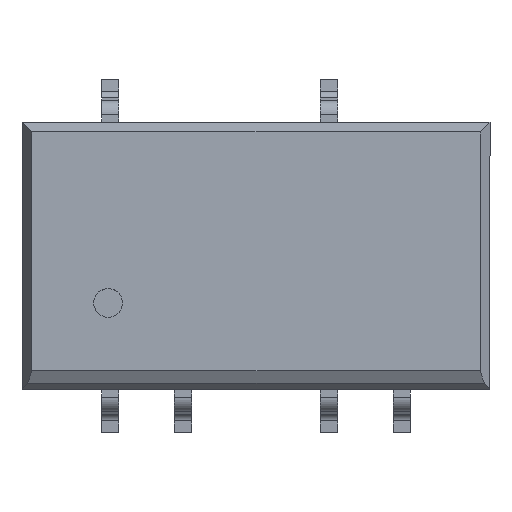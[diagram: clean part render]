
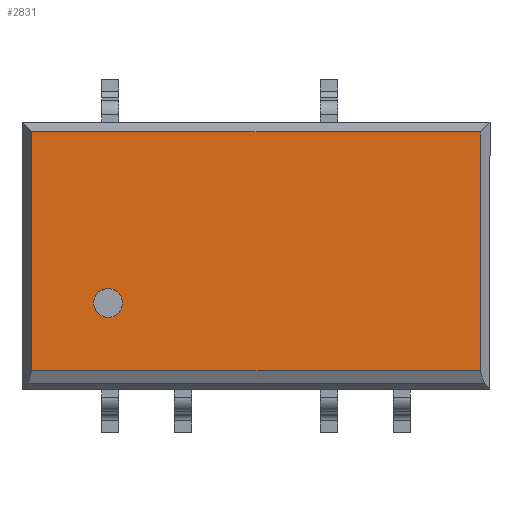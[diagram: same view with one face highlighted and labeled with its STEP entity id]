
A CAD part, top view. The second image highlights one B-rep face of the part: STEP entity #2831.
In plain terms, the highlighted planar face has unit normal (0, 0, 1).
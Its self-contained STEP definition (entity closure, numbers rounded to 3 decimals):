
#40=FACE_BOUND('',#271,.T.);
#61=CIRCLE('',#2986,0.5);
#118=FACE_OUTER_BOUND('',#270,.T.);
#270=EDGE_LOOP('',(#1786,#1787,#1788,#1789));
#271=EDGE_LOOP('',(#1790));
#441=LINE('',#3942,#780);
#445=LINE('',#3951,#784);
#451=LINE('',#3963,#790);
#454=LINE('',#3968,#793);
#780=VECTOR('',#3191,15.607);
#784=VECTOR('',#3199,8.307);
#790=VECTOR('',#3209,15.607);
#793=VECTOR('',#3214,8.307);
#1116=VERTEX_POINT('',#3935);
#1119=VERTEX_POINT('',#3940);
#1122=VERTEX_POINT('',#3950);
#1126=VERTEX_POINT('',#3962);
#1128=VERTEX_POINT('',#3969);
#1377=EDGE_CURVE('',#1119,#1116,#441,.T.);
#1381=EDGE_CURVE('',#1116,#1122,#445,.T.);
#1387=EDGE_CURVE('',#1122,#1126,#451,.T.);
#1390=EDGE_CURVE('',#1126,#1119,#454,.T.);
#1391=EDGE_CURVE('',#1128,#1128,#61,.T.);
#1786=ORIENTED_EDGE('',*,*,#1377,.F.);
#1787=ORIENTED_EDGE('',*,*,#1390,.F.);
#1788=ORIENTED_EDGE('',*,*,#1387,.F.);
#1789=ORIENTED_EDGE('',*,*,#1381,.F.);
#1790=ORIENTED_EDGE('',*,*,#1391,.T.);
#2552=PLANE('',#2985);
#2831=ADVANCED_FACE('',(#118,#40),#2552,.F.);
#2985=AXIS2_PLACEMENT_3D('',#3967,#3212,#3213);
#2986=AXIS2_PLACEMENT_3D('',#3970,#3215,#3216);
#3191=DIRECTION('',(-1.,0.,0.));
#3199=DIRECTION('',(0.,1.,0.));
#3209=DIRECTION('',(1.,0.,0.));
#3212=DIRECTION('center_axis',(0.,0.,
-1.));
#3213=DIRECTION('ref_axis',(-1.,0.,0.));
#3214=DIRECTION('',(0.,-1.,0.));
#3215=DIRECTION('center_axis',(0.,0.,
-1.));
#3216=DIRECTION('ref_axis',(1.,0.,0.));
#3935=CARTESIAN_POINT('',(-7.804,-4.004,8.6));
#3940=CARTESIAN_POINT('',(7.804,-4.004,8.6));
#3942=CARTESIAN_POINT('',(-2.038,-4.004,8.6));
#3950=CARTESIAN_POINT('',(-7.804,4.304,8.6));
#3951=CARTESIAN_POINT('',(-7.804,2.325,8.6));
#3962=CARTESIAN_POINT('',(7.804,4.304,8.6));
#3963=CARTESIAN_POINT('',(4.075,4.304,8.6));
#3967=CARTESIAN_POINT('Origin',(0.,0.,8.6));
#3968=CARTESIAN_POINT('',(7.804,-2.325,8.6));
#3969=CARTESIAN_POINT('',(-4.65,-1.65,8.6));
#3970=CARTESIAN_POINT('Origin',(-5.15,-1.65,8.6));
